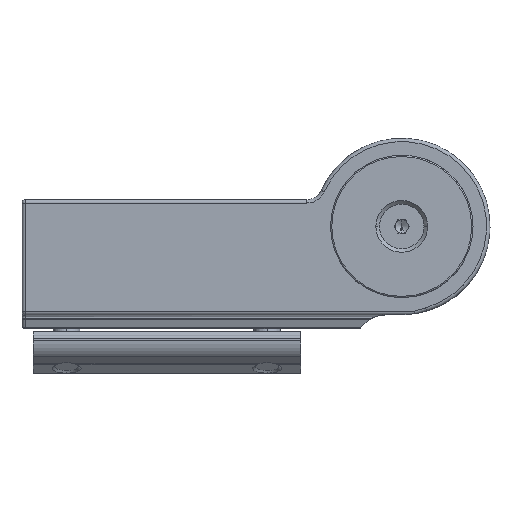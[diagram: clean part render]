
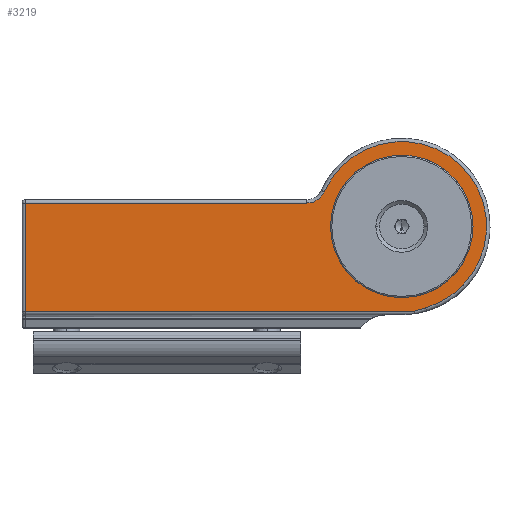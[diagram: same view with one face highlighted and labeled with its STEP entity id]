
A CAD part, top view. The second image highlights one B-rep face of the part: STEP entity #3219.
In plain terms, the highlighted planar face has unit normal (0, 0, 1).
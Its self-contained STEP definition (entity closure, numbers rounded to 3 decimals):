
#47 = PLANE ( 'NONE',  #8509 ) ;
#158 = LINE ( 'NONE', #3323, #5227 ) ;
#248 = VECTOR ( 'NONE', #1651, 1000. ) ;
#364 = EDGE_LOOP ( 'NONE', ( #417, #1244, #1017, #8573, #5788, #3255 ) ) ;
#365 = DIRECTION ( 'NONE',  ( -1., 0., 0. ) ) ;
#417 = ORIENTED_EDGE ( 'NONE', *, *, #9881, .F. ) ;
#641 = VECTOR ( 'NONE', #6641, 1000. ) ;
#689 = DIRECTION ( 'NONE',  ( 0., 0., 1. ) ) ;
#1017 = ORIENTED_EDGE ( 'NONE', *, *, #6720, .F. ) ;
#1244 = ORIENTED_EDGE ( 'NONE', *, *, #4133, .T. ) ;
#1344 = CIRCLE ( 'NONE', #2661, 19.038 ) ;
#1389 = VECTOR ( 'NONE', #8385, 1000. ) ;
#1450 = DIRECTION ( 'NONE',  ( 0., 1., 0. ) ) ;
#1505 = CIRCLE ( 'NONE', #7179, 4.262 ) ;
#1559 = VERTEX_POINT ( 'NONE', #8728 ) ;
#1651 = DIRECTION ( 'NONE',  ( -0.96, -0.281, 0. ) ) ;
#2026 = ORIENTED_EDGE ( 'NONE', *, *, #6648, .F. ) ;
#2193 = VERTEX_POINT ( 'NONE', #9918 ) ;
#2222 = CARTESIAN_POINT ( 'NONE',  ( -21.275, 29.5, 19.5 ) ) ;
#2223 = CARTESIAN_POINT ( 'NONE',  ( 0., 20., 19.5 ) ) ;
#2247 = CARTESIAN_POINT ( 'NONE',  ( 0., 20., 19.5 ) ) ;
#2367 = VERTEX_POINT ( 'NONE', #6269 ) ;
#2518 = DIRECTION ( 'NONE',  ( 0., 0., 1. ) ) ;
#2661 = AXIS2_PLACEMENT_3D ( 'NONE', #2247, #5333, #8425 ) ;
#2832 = EDGE_CURVE ( 'NONE', #1559, #2367, #6303, .T. ) ;
#2855 = CIRCLE ( 'NONE', #3822, 15.994 ) ;
#3154 = VERTEX_POINT ( 'NONE', #9577 ) ;
#3164 = CARTESIAN_POINT ( 'NONE',  ( 20.8, 0., 19.5 ) ) ;
#3219 = ADVANCED_FACE ( 'NONE', ( #7004, #4151 ), #47, .F. ) ;
#3255 = ORIENTED_EDGE ( 'NONE', *, *, #7162, .F. ) ;
#3269 = CARTESIAN_POINT ( 'NONE',  ( -84.438, 25.238, 19.5 ) ) ;
#3323 = CARTESIAN_POINT ( 'NONE',  ( 20.8, 1., 19.5 ) ) ;
#3374 = EDGE_CURVE ( 'NONE', #7791, #3154, #2855, .T. ) ;
#3633 = EDGE_LOOP ( 'NONE', ( #2026, #4142 ) ) ;
#3822 = AXIS2_PLACEMENT_3D ( 'NONE', #2223, #8551, #1450 ) ;
#4133 = EDGE_CURVE ( 'NONE', #6782, #2193, #5075, .T. ) ;
#4142 = ORIENTED_EDGE ( 'NONE', *, *, #3374, .F. ) ;
#4151 = FACE_OUTER_BOUND ( 'NONE', #364, .T. ) ;
#4318 = VERTEX_POINT ( 'NONE', #8362 ) ;
#4388 = CARTESIAN_POINT ( 'NONE',  ( -86.2, 25.238, 19.5 ) ) ;
#5033 = CARTESIAN_POINT ( 'NONE',  ( 0., 20., 19.5 ) ) ;
#5075 = LINE ( 'NONE', #8164, #641 ) ;
#5227 = VECTOR ( 'NONE', #365, 1000. ) ;
#5333 = DIRECTION ( 'NONE',  ( 0., 0., -1. ) ) ;
#5676 = DIRECTION ( 'NONE',  ( 0., 0., -1. ) ) ;
#5788 = ORIENTED_EDGE ( 'NONE', *, *, #8746, .F. ) ;
#5905 = LINE ( 'NONE', #4388, #1389 ) ;
#6248 = DIRECTION ( 'NONE',  ( -1., 0., 0. ) ) ;
#6269 = CARTESIAN_POINT ( 'NONE',  ( 2.863, 1., 19.5 ) ) ;
#6303 = LINE ( 'NONE', #8586, #248 ) ;
#6356 = VERTEX_POINT ( 'NONE', #7989 ) ;
#6641 = DIRECTION ( 'NONE',  ( 0., -1., 0. ) ) ;
#6648 = EDGE_CURVE ( 'NONE', #3154, #7791, #8298, .T. ) ;
#6720 = EDGE_CURVE ( 'NONE', #2367, #2193, #158, .T. ) ;
#6782 = VERTEX_POINT ( 'NONE', #3269 ) ;
#7004 = FACE_BOUND ( 'NONE', #3633, .T. ) ;
#7162 = EDGE_CURVE ( 'NONE', #6356, #4318, #1505, .T. ) ;
#7172 = AXIS2_PLACEMENT_3D ( 'NONE', #5033, #2518, #8840 ) ;
#7179 = AXIS2_PLACEMENT_3D ( 'NONE', #2222, #689, #9973 ) ;
#7791 = VERTEX_POINT ( 'NONE', #9602 ) ;
#7989 = CARTESIAN_POINT ( 'NONE',  ( -21.275, 25.238, 19.5 ) ) ;
#8164 = CARTESIAN_POINT ( 'NONE',  ( -84.438, 1., 19.5 ) ) ;
#8298 = CIRCLE ( 'NONE', #7172, 15.994 ) ;
#8362 = CARTESIAN_POINT ( 'NONE',  ( -17.384, 27.762, 19.5 ) ) ;
#8385 = DIRECTION ( 'NONE',  ( 1., 0., 0. ) ) ;
#8425 = DIRECTION ( 'NONE',  ( -0.913, 0.408, 0. ) ) ;
#8509 = AXIS2_PLACEMENT_3D ( 'NONE', #3164, #5676, #6248 ) ;
#8551 = DIRECTION ( 'NONE',  ( 0., 0., 1. ) ) ;
#8573 = ORIENTED_EDGE ( 'NONE', *, *, #2832, .F. ) ;
#8586 = CARTESIAN_POINT ( 'NONE',  ( 5.357, 1.731, 19.5 ) ) ;
#8728 = CARTESIAN_POINT ( 'NONE',  ( 5.357, 1.731, 19.5 ) ) ;
#8746 = EDGE_CURVE ( 'NONE', #4318, #1559, #1344, .T. ) ;
#8840 = DIRECTION ( 'NONE',  ( 0., 1., 0. ) ) ;
#9577 = CARTESIAN_POINT ( 'NONE',  ( 0., 35.994, 19.5 ) ) ;
#9602 = CARTESIAN_POINT ( 'NONE',  ( 0., 4.006, 19.5 ) ) ;
#9881 = EDGE_CURVE ( 'NONE', #6782, #6356, #5905, .T. ) ;
#9918 = CARTESIAN_POINT ( 'NONE',  ( -84.438, 1., 19.5 ) ) ;
#9973 = DIRECTION ( 'NONE',  ( 0., -1., 0. ) ) ;
